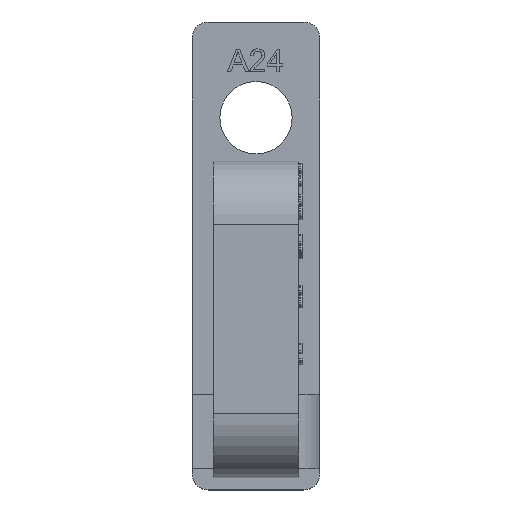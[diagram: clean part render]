
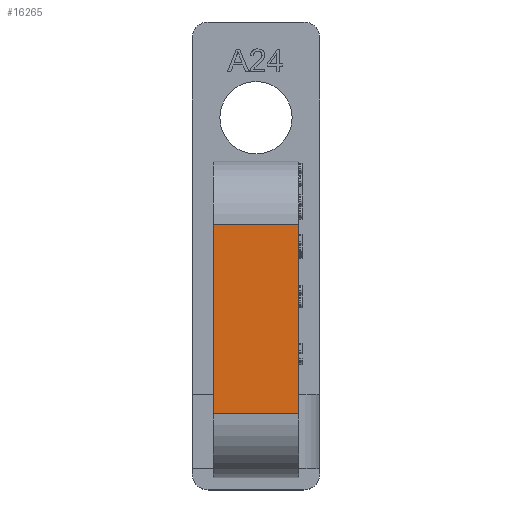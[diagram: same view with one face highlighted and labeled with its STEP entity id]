
A CAD part, top view. The second image highlights one B-rep face of the part: STEP entity #16265.
In plain terms, the highlighted planar face has unit normal (0, 0, 1).
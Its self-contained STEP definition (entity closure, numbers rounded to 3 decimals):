
#3196 = PLANE('',#3197);
#3197 = AXIS2_PLACEMENT_3D('',#3198,#3199,#3200);
#3198 = CARTESIAN_POINT('',(-4.,-0.227,47.191));
#3199 = DIRECTION('',(1.,0.,0.));
#3200 = DIRECTION('',(-0.,0.,1.));
#3246 = PLANE('',#3247);
#3247 = AXIS2_PLACEMENT_3D('',#3248,#3249,#3250);
#3248 = CARTESIAN_POINT('',(4.,-0.227,47.191));
#3249 = DIRECTION('',(1.,0.,0.));
#3250 = DIRECTION('',(-0.,0.,1.));
#6432 = VERTEX_POINT('',#6433);
#6433 = CARTESIAN_POINT('',(-4.,2.787,86.));
#6448 = CYLINDRICAL_SURFACE('',#6449,6.);
#6449 = AXIS2_PLACEMENT_3D('',#6450,#6451,#6452);
#6450 = CARTESIAN_POINT('',(-4.,2.787,80.));
#6451 = DIRECTION('',(-1.,-0.,-0.));
#6452 = DIRECTION('',(0.,1.,0.));
#6460 = EDGE_CURVE('',#6432,#6461,#6463,.T.);
#6461 = VERTEX_POINT('',#6462);
#6462 = CARTESIAN_POINT('',(-4.,-15.,86.));
#6463 = SURFACE_CURVE('',#6464,(#6468,#6475),.PCURVE_S1.);
#6464 = LINE('',#6465,#6466);
#6465 = CARTESIAN_POINT('',(-4.,2.787,86.));
#6466 = VECTOR('',#6467,1.);
#6467 = DIRECTION('',(0.,-1.,0.));
#6468 = PCURVE('',#3196,#6469);
#6469 = DEFINITIONAL_REPRESENTATION('',(#6470),#6474);
#6470 = LINE('',#6471,#6472);
#6471 = CARTESIAN_POINT('',(38.809,-3.015));
#6472 = VECTOR('',#6473,1.);
#6473 = DIRECTION('',(0.,1.));
#6474 = ( GEOMETRIC_REPRESENTATION_CONTEXT(2) 
PARAMETRIC_REPRESENTATION_CONTEXT() REPRESENTATION_CONTEXT('2D SPACE',''
  ) );
#6475 = PCURVE('',#6476,#6481);
#6476 = PLANE('',#6477);
#6477 = AXIS2_PLACEMENT_3D('',#6478,#6479,#6480);
#6478 = CARTESIAN_POINT('',(-4.,2.787,86.));
#6479 = DIRECTION('',(0.,0.,-1.));
#6480 = DIRECTION('',(0.,-1.,0.));
#6481 = DEFINITIONAL_REPRESENTATION('',(#6482),#6486);
#6482 = LINE('',#6483,#6484);
#6483 = CARTESIAN_POINT('',(0.,-0.));
#6484 = VECTOR('',#6485,1.);
#6485 = DIRECTION('',(1.,0.));
#6486 = ( GEOMETRIC_REPRESENTATION_CONTEXT(2) 
PARAMETRIC_REPRESENTATION_CONTEXT() REPRESENTATION_CONTEXT('2D SPACE',''
  ) );
#6505 = CYLINDRICAL_SURFACE('',#6506,6.);
#6506 = AXIS2_PLACEMENT_3D('',#6507,#6508,#6509);
#6507 = CARTESIAN_POINT('',(-4.,-15.,80.));
#6508 = DIRECTION('',(-1.,-0.,-0.));
#6509 = DIRECTION('',(-0.,0.,1.));
#6944 = VERTEX_POINT('',#6945);
#6945 = CARTESIAN_POINT('',(4.,2.787,86.));
#6967 = EDGE_CURVE('',#6944,#6968,#6970,.T.);
#6968 = VERTEX_POINT('',#6969);
#6969 = CARTESIAN_POINT('',(4.,-15.,86.));
#6970 = SURFACE_CURVE('',#6971,(#6975,#6982),.PCURVE_S1.);
#6971 = LINE('',#6972,#6973);
#6972 = CARTESIAN_POINT('',(4.,2.787,86.));
#6973 = VECTOR('',#6974,1.);
#6974 = DIRECTION('',(0.,-1.,0.));
#6975 = PCURVE('',#3246,#6976);
#6976 = DEFINITIONAL_REPRESENTATION('',(#6977),#6981);
#6977 = LINE('',#6978,#6979);
#6978 = CARTESIAN_POINT('',(38.809,-3.015));
#6979 = VECTOR('',#6980,1.);
#6980 = DIRECTION('',(0.,1.));
#6981 = ( GEOMETRIC_REPRESENTATION_CONTEXT(2) 
PARAMETRIC_REPRESENTATION_CONTEXT() REPRESENTATION_CONTEXT('2D SPACE',''
  ) );
#6982 = PCURVE('',#6476,#6983);
#6983 = DEFINITIONAL_REPRESENTATION('',(#6984),#6988);
#6984 = LINE('',#6985,#6986);
#6985 = CARTESIAN_POINT('',(0.,-8.));
#6986 = VECTOR('',#6987,1.);
#6987 = DIRECTION('',(1.,0.));
#6988 = ( GEOMETRIC_REPRESENTATION_CONTEXT(2) 
PARAMETRIC_REPRESENTATION_CONTEXT() REPRESENTATION_CONTEXT('2D SPACE',''
  ) );
#16242 = EDGE_CURVE('',#6461,#6968,#16243,.T.);
#16243 = SURFACE_CURVE('',#16244,(#16248,#16255),.PCURVE_S1.);
#16244 = LINE('',#16245,#16246);
#16245 = CARTESIAN_POINT('',(-4.,-15.,86.));
#16246 = VECTOR('',#16247,1.);
#16247 = DIRECTION('',(1.,0.,0.));
#16248 = PCURVE('',#6505,#16249);
#16249 = DEFINITIONAL_REPRESENTATION('',(#16250),#16254);
#16250 = LINE('',#16251,#16252);
#16251 = CARTESIAN_POINT('',(-0.,0.));
#16252 = VECTOR('',#16253,1.);
#16253 = DIRECTION('',(-0.,-1.));
#16254 = ( GEOMETRIC_REPRESENTATION_CONTEXT(2) 
PARAMETRIC_REPRESENTATION_CONTEXT() REPRESENTATION_CONTEXT('2D SPACE',''
  ) );
#16255 = PCURVE('',#6476,#16256);
#16256 = DEFINITIONAL_REPRESENTATION('',(#16257),#16261);
#16257 = LINE('',#16258,#16259);
#16258 = CARTESIAN_POINT('',(17.787,0.));
#16259 = VECTOR('',#16260,1.);
#16260 = DIRECTION('',(0.,-1.));
#16261 = ( GEOMETRIC_REPRESENTATION_CONTEXT(2) 
PARAMETRIC_REPRESENTATION_CONTEXT() REPRESENTATION_CONTEXT('2D SPACE',''
  ) );
#16265 = ADVANCED_FACE('',(#16266),#6476,.F.);
#16266 = FACE_BOUND('',#16267,.F.);
#16267 = EDGE_LOOP('',(#16268,#16289,#16290,#16291));
#16268 = ORIENTED_EDGE('',*,*,#16269,.T.);
#16269 = EDGE_CURVE('',#6432,#6944,#16270,.T.);
#16270 = SURFACE_CURVE('',#16271,(#16275,#16282),.PCURVE_S1.);
#16271 = LINE('',#16272,#16273);
#16272 = CARTESIAN_POINT('',(-4.,2.787,86.));
#16273 = VECTOR('',#16274,1.);
#16274 = DIRECTION('',(1.,0.,0.));
#16275 = PCURVE('',#6476,#16276);
#16276 = DEFINITIONAL_REPRESENTATION('',(#16277),#16281);
#16277 = LINE('',#16278,#16279);
#16278 = CARTESIAN_POINT('',(0.,-0.));
#16279 = VECTOR('',#16280,1.);
#16280 = DIRECTION('',(0.,-1.));
#16281 = ( GEOMETRIC_REPRESENTATION_CONTEXT(2) 
PARAMETRIC_REPRESENTATION_CONTEXT() REPRESENTATION_CONTEXT('2D SPACE',''
  ) );
#16282 = PCURVE('',#6448,#16283);
#16283 = DEFINITIONAL_REPRESENTATION('',(#16284),#16288);
#16284 = LINE('',#16285,#16286);
#16285 = CARTESIAN_POINT('',(-1.571,0.));
#16286 = VECTOR('',#16287,1.);
#16287 = DIRECTION('',(-0.,-1.));
#16288 = ( GEOMETRIC_REPRESENTATION_CONTEXT(2) 
PARAMETRIC_REPRESENTATION_CONTEXT() REPRESENTATION_CONTEXT('2D SPACE',''
  ) );
#16289 = ORIENTED_EDGE('',*,*,#6967,.T.);
#16290 = ORIENTED_EDGE('',*,*,#16242,.F.);
#16291 = ORIENTED_EDGE('',*,*,#6460,.F.);
